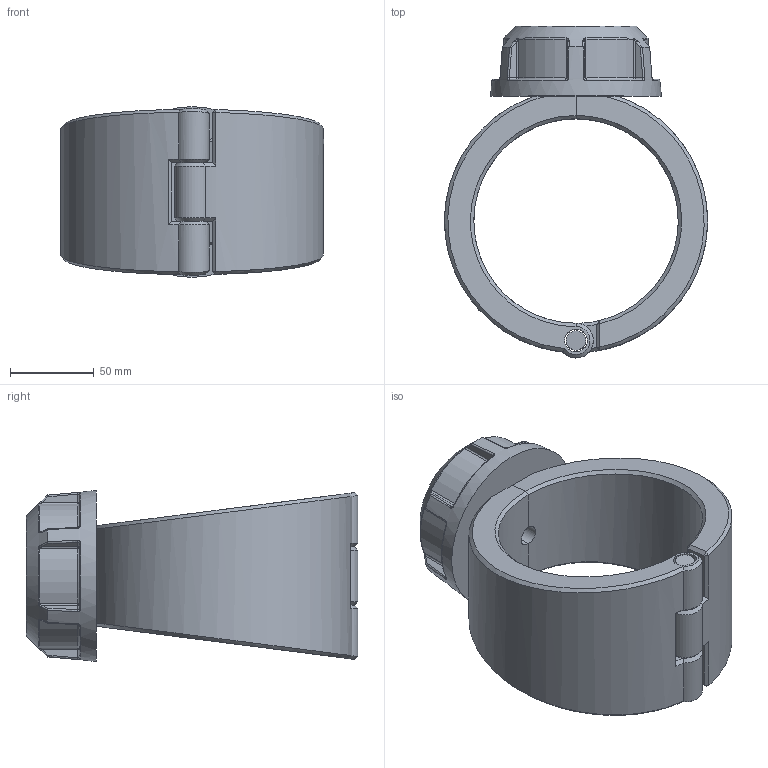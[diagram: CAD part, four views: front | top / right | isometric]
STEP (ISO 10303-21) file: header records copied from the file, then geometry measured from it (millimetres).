
FILE_DESCRIPTION(/* description */ ('Plassadle Threaded 122x3/4'''''),/* implementation_level */ '2;1');
FILE_NAME(/* name */ 'C:\Users\comp2\Dropbox\99-16-3568-Processing\Mechanical Fittings\16300\stp\163000122007.stp',/* time_stamp */ '2022-02-03T11:48:19+00:00',/* author */ ('comp2'),/* organization */ (''),/* preprocessor_version */ 'ST-DEVELOPER v17.2',/* originating_system */ 'Autodesk Inventor 2019',/* authorisation */ '');
FILE_SCHEMA (('AUTOMOTIVE_DESIGN { 1 0 10303 214 3 1 1 }'));
Length unit declared in the file: millimetre
Products named in the file (1): 163000122007
Bounding box: 156.98 x 198 x 102 mm (x, y, z)
Volume: 838234.6 mm3; surface area: 124792.7 mm2
Topology: 4 solids, 4 shells, 203 faces, 486 edges, 293 vertices
Faces by surface type: bspline 58, plane 53, cylinder 47, torus 18, cone 15, sphere 12
Full cylindrical faces by diameter (mm): 11.64 x1, 12.059 x1, 13.64 x3, 20.499 x1, 24.117 x1, 36.175 x1
Entity records: 8229 total; most frequent: CARTESIAN_POINT 3882, ORIENTED_EDGE 972, DIRECTION 781, EDGE_CURVE 486, AXIS2_PLACEMENT_3D 330, VERTEX_POINT 293, EDGE_LOOP 213, FACE_OUTER_BOUND 203
